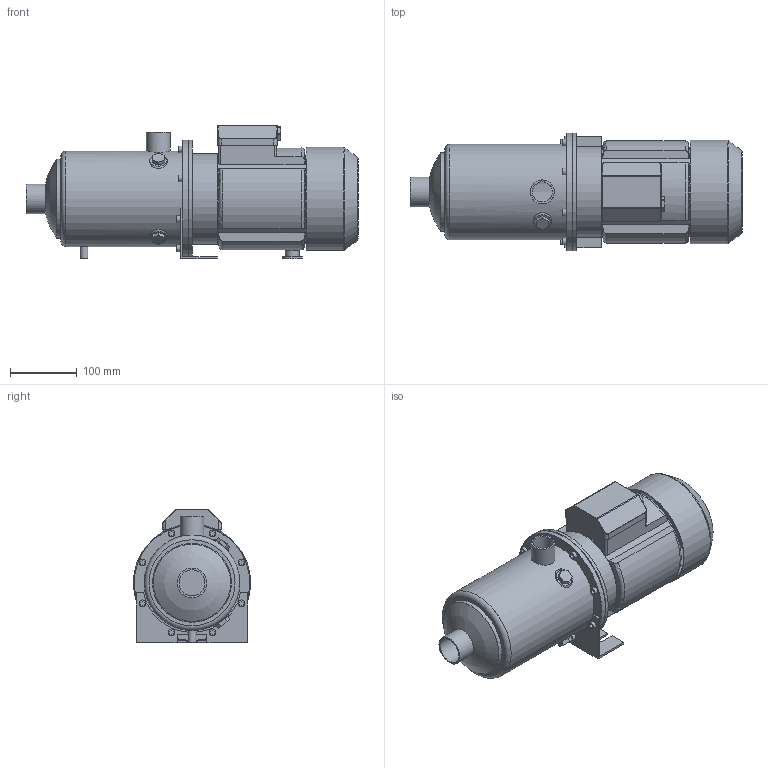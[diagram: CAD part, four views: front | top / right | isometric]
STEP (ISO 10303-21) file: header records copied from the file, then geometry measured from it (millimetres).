
FILE_DESCRIPTION(/* description */ ('Unknown'),/* implementation_level */ '2;1');
FILE_NAME(/* name */ 'MH 5 [7] T',/* time_stamp */ '2026-07-10T14:57:22+02:00',/* author */ ('Unknown'),/* organization */ ('Unknown'),/* preprocessor_version */ 'ST-DEVELOPER v20',/* originating_system */ 'Solid Edge',/* authorisation */ 'Unknown');
FILE_SCHEMA (('AUTOMOTIVE_DESIGN {1 0 10303 214 3 1 1}'));
Length unit declared in the file: millimetre
Products named in the file (10): MH 5 [7] T; Flangia motore Tonda M80; Corpo MH 3-5 [7]; Mot_Wendy_MEC80_11-15_T; carcassa MEC 80-Wendy; Copriventola MEC 80-Wendy; Basetta MEC 80 T-Wendy_new; Piedino MEC 80 int.90; Staffa 3-5-9 int.90
Assembly tree (8 placements, depth 3):
  MH 5 [7] T
    Flangia motore Tonda M80
    Corpo MH 3-5 [7]
    Mot_Wendy_MEC80_11-15_T
      carcassa MEC 80-Wendy
      Copriventola MEC 80-Wendy
      Basetta MEC 80 T-Wendy_new
    Piedino MEC 80 int.90
    Staffa 3-5-9 int.90
  (unnamed)
Bounding box: 499.1 x 176.5 x 200.5 mm (x, y, z)
Volume: 2083893.8 mm3; surface area: 611168.4 mm2
Topology: 8 solids, 8 shells, 278 faces, 651 edges, 432 vertices
Faces by surface type: plane 164, cylinder 75, torus 19, cone 14, bspline 4, sphere 2
Full cylindrical faces by diameter (mm): 7 x4, 10 x9, 12 x1, 13.5 x1, 17.5 x1, 21 x1, 30 x1, 30.291 x1, 36 x1, 38.952 x1, 44.5 x1, 116.1 x1, 118.5 x1, 125 x1, 130 x3, 134 x1, 136 x1, 141.1 x1, 143.5 x1, 153.5 x1, 155.5 x1, 173.5 x1, 174.1 x1, 176.5 x2
Entity records: 8922 total; most frequent: CARTESIAN_POINT 1612, DIRECTION 1268, ORIENTED_EDGE 1122, EDGE_CURVE 561, AXIS2_PLACEMENT_3D 464, VERTEX_POINT 400, EDGE_LOOP 389, FACE_BOUND 389
